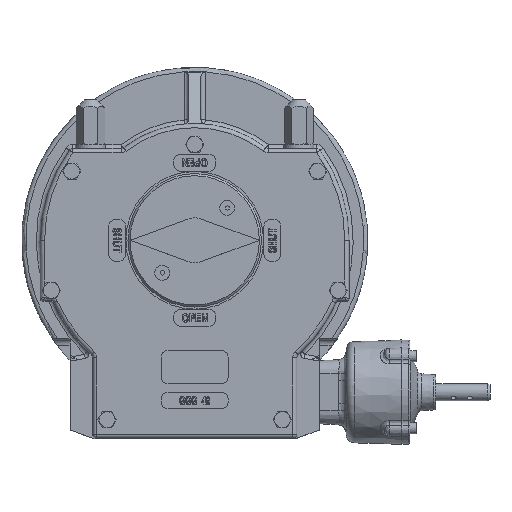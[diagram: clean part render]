
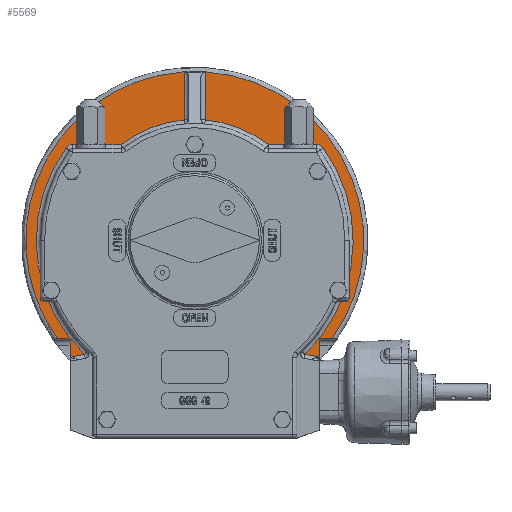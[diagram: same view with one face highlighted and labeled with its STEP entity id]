
A CAD part, top view. The second image highlights one B-rep face of the part: STEP entity #5569.
In plain terms, the highlighted planar face has unit normal (0, 0, 1).
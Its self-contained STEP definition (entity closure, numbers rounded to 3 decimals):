
#5569 = ADVANCED_FACE( '', ( #12119 ), #12120, .F. );
#12119 = FACE_OUTER_BOUND( '', #24767, .T. );
#12120 = PLANE( '', #24768 );
#24767 = EDGE_LOOP( '', ( #44963, #44964, #44965, #44966, #44967, #44968, #44969, #44970, #44971, #44972, #44973, #44974, #44975, #44976, #44977, #44978, #44979, #44980, #44981, #44982 ) );
#24768 = AXIS2_PLACEMENT_3D( '', #44983, #44984, #44985 );
#44963 = ORIENTED_EDGE( '', *, *, #53783, .T. );
#44964 = ORIENTED_EDGE( '', *, *, #52520, .T. );
#44965 = ORIENTED_EDGE( '', *, *, #52831, .T. );
#44966 = ORIENTED_EDGE( '', *, *, #55316, .T. );
#44967 = ORIENTED_EDGE( '', *, *, #52678, .T. );
#44968 = ORIENTED_EDGE( '', *, *, #58808, .T. );
#44969 = ORIENTED_EDGE( '', *, *, #58164, .T. );
#44970 = ORIENTED_EDGE( '', *, *, #55367, .T. );
#44971 = ORIENTED_EDGE( '', *, *, #53845, .F. );
#44972 = ORIENTED_EDGE( '', *, *, #58809, .T. );
#44973 = ORIENTED_EDGE( '', *, *, #54255, .T. );
#44974 = ORIENTED_EDGE( '', *, *, #57123, .T. );
#44975 = ORIENTED_EDGE( '', *, *, #52241, .F. );
#44976 = ORIENTED_EDGE( '', *, *, #58810, .T. );
#44977 = ORIENTED_EDGE( '', *, *, #55042, .T. );
#44978 = ORIENTED_EDGE( '', *, *, #56805, .T. );
#44979 = ORIENTED_EDGE( '', *, *, #52496, .F. );
#44980 = ORIENTED_EDGE( '', *, *, #58811, .T. );
#44981 = ORIENTED_EDGE( '', *, *, #52258, .T. );
#44982 = ORIENTED_EDGE( '', *, *, #57118, .T. );
#44983 = CARTESIAN_POINT( '', ( 0., 0., 56. ) );
#44984 = DIRECTION( '', ( 0., 0., -1. ) );
#44985 = DIRECTION( '', ( -1., 0., 0. ) );
#52241 = EDGE_CURVE( '', #60624, #60626, #60627, .T. );
#52258 = EDGE_CURVE( '', #60657, #60655, #60658, .F. );
#52496 = EDGE_CURVE( '', #61079, #61075, #61081, .F. );
#52520 = EDGE_CURVE( '', #61123, #61124, #61125, .T. );
#52678 = EDGE_CURVE( '', #61403, #61401, #61404, .T. );
#52831 = EDGE_CURVE( '', #61124, #61671, #61673, .F. );
#53783 = EDGE_CURVE( '', #63301, #61123, #63302, .T. );
#53845 = EDGE_CURVE( '', #63405, #63400, #63407, .F. );
#54255 = EDGE_CURVE( '', #64091, #64096, #64098, .T. );
#55042 = EDGE_CURVE( '', #62380, #60733, #65378, .T. );
#55316 = EDGE_CURVE( '', #61671, #61403, #65796, .T. );
#55367 = EDGE_CURVE( '', #65878, #63400, #65881, .T. );
#56805 = EDGE_CURVE( '', #60733, #61075, #68070, .T. );
#57118 = EDGE_CURVE( '', #60655, #63301, #68513, .F. );
#57123 = EDGE_CURVE( '', #64096, #60626, #68520, .F. );
#58164 = EDGE_CURVE( '', #69896, #65878, #69897, .F. );
#58808 = EDGE_CURVE( '', #61401, #69896, #70696, .F. );
#58809 = EDGE_CURVE( '', #63405, #64091, #70697, .T. );
#58810 = EDGE_CURVE( '', #60624, #62380, #70698, .T. );
#58811 = EDGE_CURVE( '', #61079, #60657, #70699, .T. );
#60624 = VERTEX_POINT( '', #72945 );
#60626 = VERTEX_POINT( '', #72947 );
#60627 = LINE( '', #72948, #72949 );
#60655 = VERTEX_POINT( '', #72989 );
#60657 = VERTEX_POINT( '', #73053 );
#60658 = LINE( '', #73054, #73055 );
#60733 = VERTEX_POINT( '', #73174 );
#61075 = VERTEX_POINT( '', #73880 );
#61079 = VERTEX_POINT( '', #73884 );
#61081 = CIRCLE( '', #73886, 10. );
#61123 = VERTEX_POINT( '', #73991 );
#61124 = VERTEX_POINT( '', #73992 );
#61125 = LINE( '', #73993, #73994 );
#61401 = VERTEX_POINT( '', #74592 );
#61403 = VERTEX_POINT( '', #74601 );
#61404 = LINE( '', #74602, #74603 );
#61671 = VERTEX_POINT( '', #75213 );
#61673 = CIRCLE( '', #75232, 202.5 );
#62380 = VERTEX_POINT( '', #76967 );
#63301 = VERTEX_POINT( '', #78917 );
#63302 = LINE( '', #78918, #78919 );
#63400 = VERTEX_POINT( '', #79293 );
#63405 = VERTEX_POINT( '', #79298 );
#63407 = CIRCLE( '', #79300, 10. );
#64091 = VERTEX_POINT( '', #80562 );
#64096 = VERTEX_POINT( '', #80567 );
#64098 = CIRCLE( '', #80569, 145. );
#65378 = CIRCLE( '', #84339, 145. );
#65796 = LINE( '', #85213, #85214 );
#65878 = VERTEX_POINT( '', #85337 );
#65881 = CIRCLE( '', #85340, 190. );
#68070 = LINE( '', #89731, #89732 );
#68513 = CIRCLE( '', #90647, 202.5 );
#68520 = LINE( '', #90661, #90662 );
#69896 = VERTEX_POINT( '', #94119 );
#69897 = LINE( '', #94120, #94121 );
#70696 = CIRCLE( '', #96194, 202.5 );
#70697 = LINE( '', #96195, #96196 );
#70698 = LINE( '', #96197, #96198 );
#70699 = CIRCLE( '', #96199, 190. );
#72945 = CARTESIAN_POINT( '', ( 12.5, 201.5, 56. ) );
#72947 = CARTESIAN_POINT( '', ( -12.5, 201.5, 56. ) );
#72948 = CARTESIAN_POINT( '', ( 0., 201.5, 56. ) );
#72949 = VECTOR( '', #99539, 1000. );
#72989 = CARTESIAN_POINT( '', ( 147.058, -139.213, 56. ) );
#73053 = CARTESIAN_POINT( '', ( 132.089, -136.574, 56. ) );
#73054 = CARTESIAN_POINT( '', ( 149.686, -139.677, 56. ) );
#73055 = VECTOR( '', #99559, 1000. );
#73174 = CARTESIAN_POINT( '', ( 88.318, 115., 56. ) );
#73880 = CARTESIAN_POINT( '', ( 146.202, 115., 56. ) );
#73884 = CARTESIAN_POINT( '', ( 154.324, 110.833, 56. ) );
#73886 = AXIS2_PLACEMENT_3D( '', #99852, #99853, #99854 );
#73991 = CARTESIAN_POINT( '', ( 149.5, -118., 56. ) );
#73992 = CARTESIAN_POINT( '', ( 164.567, -118., 56. ) );
#73993 = CARTESIAN_POINT( '', ( 0., -118., 56. ) );
#73994 = VECTOR( '', #99859, 1000. );
#74592 = CARTESIAN_POINT( '', ( -149.5, -136.587, 56. ) );
#74601 = CARTESIAN_POINT( '', ( -149.5, -118., 56. ) );
#74602 = CARTESIAN_POINT( '', ( -149.5, 0., 56. ) );
#74603 = VECTOR( '', #100050, 1000. );
#75213 = CARTESIAN_POINT( '', ( -164.567, -118., 56. ) );
#75232 = AXIS2_PLACEMENT_3D( '', #100225, #100226, #100227 );
#76967 = CARTESIAN_POINT( '', ( 12.5, 144.46, 56. ) );
#78917 = CARTESIAN_POINT( '', ( 149.5, -136.587, 56. ) );
#78918 = CARTESIAN_POINT( '', ( 149.5, 0., 56. ) );
#78919 = VECTOR( '', #101278, 1000. );
#79293 = CARTESIAN_POINT( '', ( -154.324, 110.833, 56. ) );
#79298 = CARTESIAN_POINT( '', ( -146.202, 115., 56. ) );
#79300 = AXIS2_PLACEMENT_3D( '', #101347, #101348, #101349 );
#80562 = CARTESIAN_POINT( '', ( -88.318, 115., 56. ) );
#80567 = CARTESIAN_POINT( '', ( -12.5, 144.46, 56. ) );
#80569 = AXIS2_PLACEMENT_3D( '', #101878, #101879, #101880 );
#84339 = AXIS2_PLACEMENT_3D( '', #102778, #102779, #102780 );
#85213 = CARTESIAN_POINT( '', ( 0., -118., 56. ) );
#85214 = VECTOR( '', #103098, 1000. );
#85337 = CARTESIAN_POINT( '', ( -132.089, -136.574, 56. ) );
#85340 = AXIS2_PLACEMENT_3D( '', #103146, #103147, #103148 );
#89731 = CARTESIAN_POINT( '', ( 0., 115., 56. ) );
#89732 = VECTOR( '', #105050, 1000. );
#90647 = AXIS2_PLACEMENT_3D( '', #105371, #105372, #105373 );
#90661 = CARTESIAN_POINT( '', ( -12.5, 201.5, 56. ) );
#90662 = VECTOR( '', #105377, 1000. );
#94119 = CARTESIAN_POINT( '', ( -147.058, -139.213, 56. ) );
#94120 = CARTESIAN_POINT( '', ( -122.105, -134.813, 56. ) );
#94121 = VECTOR( '', #106361, 1000. );
#96194 = AXIS2_PLACEMENT_3D( '', #106880, #106881, #106882 );
#96195 = CARTESIAN_POINT( '', ( 0., 115., 56. ) );
#96196 = VECTOR( '', #106883, 1000. );
#96197 = CARTESIAN_POINT( '', ( 12.5, 0., 56. ) );
#96198 = VECTOR( '', #106884, 1000. );
#96199 = AXIS2_PLACEMENT_3D( '', #106885, #106886, #106887 );
#99539 = DIRECTION( '', ( -1., 0., 0. ) );
#99559 = DIRECTION( '', ( -0.985, 0.174, 0. ) );
#99852 = CARTESIAN_POINT( '', ( 146.202, 105., 56. ) );
#99853 = DIRECTION( '', ( 0., 0., -1. ) );
#99854 = DIRECTION( '', ( -1., 0., 0. ) );
#99859 = DIRECTION( '', ( 1., 0., 0. ) );
#100050 = DIRECTION( '', ( 0., -1., 0. ) );
#100225 = CARTESIAN_POINT( '', ( 0., 0., 56. ) );
#100226 = DIRECTION( '', ( 0., 0., -1. ) );
#100227 = DIRECTION( '', ( -1., 0., 0. ) );
#101278 = DIRECTION( '', ( 0., 1., 0. ) );
#101347 = CARTESIAN_POINT( '', ( -146.202, 105., 56. ) );
#101348 = DIRECTION( '', ( 0., 0., -1. ) );
#101349 = DIRECTION( '', ( -1., 0., 0. ) );
#101878 = CARTESIAN_POINT( '', ( 0., 0., 56. ) );
#101879 = DIRECTION( '', ( 0., 0., -1. ) );
#101880 = DIRECTION( '', ( -1., 0., 0. ) );
#102778 = CARTESIAN_POINT( '', ( 0., 0., 56. ) );
#102779 = DIRECTION( '', ( 0., 0., -1. ) );
#102780 = DIRECTION( '', ( -1., 0., 0. ) );
#103098 = DIRECTION( '', ( 1., 0., 0. ) );
#103146 = CARTESIAN_POINT( '', ( 0., 0., 56. ) );
#103147 = DIRECTION( '', ( 0., 0., -1. ) );
#103148 = DIRECTION( '', ( -1., 0., 0. ) );
#105050 = DIRECTION( '', ( 1., 0., 0. ) );
#105371 = CARTESIAN_POINT( '', ( 0., 0., 56. ) );
#105372 = DIRECTION( '', ( 0., 0., -1. ) );
#105373 = DIRECTION( '', ( -1., 0., 0. ) );
#105377 = DIRECTION( '', ( 0., -1., 0. ) );
#106361 = DIRECTION( '', ( -0.985, -0.174, 0. ) );
#106880 = CARTESIAN_POINT( '', ( 0., 0., 56. ) );
#106881 = DIRECTION( '', ( 0., 0., -1. ) );
#106882 = DIRECTION( '', ( -1., 0., 0. ) );
#106883 = DIRECTION( '', ( 1., 0., 0. ) );
#106884 = DIRECTION( '', ( 0., -1., 0. ) );
#106885 = CARTESIAN_POINT( '', ( 0., 0., 56. ) );
#106886 = DIRECTION( '', ( 0., 0., -1. ) );
#106887 = DIRECTION( '', ( -1., 0., 0. ) );
